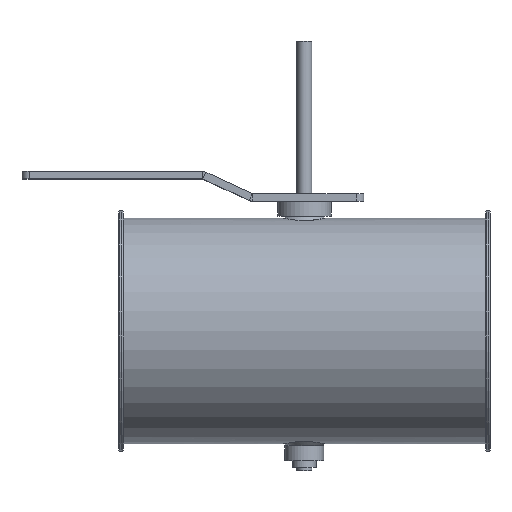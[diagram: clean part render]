
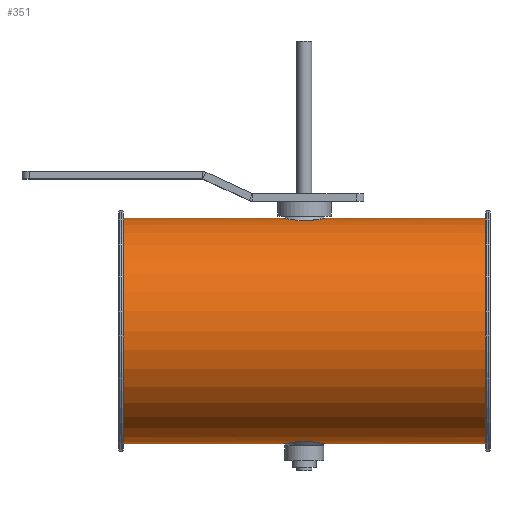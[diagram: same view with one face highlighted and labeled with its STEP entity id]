
A CAD part, top view. The second image highlights one B-rep face of the part: STEP entity #351.
In plain terms, the highlighted cylindrical face has radius 75.8 mm (diameter 151.6 mm), a full revolution.
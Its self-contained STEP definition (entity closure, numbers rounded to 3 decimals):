
#113=B_SPLINE_CURVE_WITH_KNOTS('',3,(#2085,#2086,#2087,#2088,#2089,#2090,
#2091,#2092,#2093,#2094,#2095,#2096,#2097,#2098,#2099,#2100,#2101,#2102,
#2103,#2104,#2105,#2106),.UNSPECIFIED.,.T.,.F.,(2,2,2,2,2,2,2,2,2,2,2,2,
2),(-0.062,0.,0.125,0.25,0.375,0.438,0.5,0.625,0.75,0.875,
0.938,1.,1.125),.UNSPECIFIED.);
#114=B_SPLINE_CURVE_WITH_KNOTS('',3,(#2108,#2109,#2110,#2111,#2112,#2113,
#2114,#2115,#2116,#2117,#2118,#2119,#2120,#2121,#2122,#2123,#2124,#2125,
#2126,#2127,#2128,#2129),.UNSPECIFIED.,.T.,.F.,(2,2,2,2,2,2,2,2,2,2,2,2,
2),(-0.125,0.,0.063,0.125,0.25,0.375,0.5,0.563,0.625,0.75,0.875,1.,1.063),
 .UNSPECIFIED.);
#287=CYLINDRICAL_SURFACE('',#1420,75.8);
#351=ADVANCED_FACE('',(#487,#488,#489,#490),#287,.T.);
#487=FACE_BOUND('',#651,.T.);
#488=FACE_BOUND('',#652,.T.);
#489=FACE_BOUND('',#653,.T.);
#490=FACE_BOUND('',#654,.T.);
#651=EDGE_LOOP('',(#919));
#652=EDGE_LOOP('',(#920));
#653=EDGE_LOOP('',(#921));
#654=EDGE_LOOP('',(#922));
#919=ORIENTED_EDGE('',*,*,#1197,.T.);
#920=ORIENTED_EDGE('',*,*,#1198,.T.);
#921=ORIENTED_EDGE('',*,*,#1199,.T.);
#922=ORIENTED_EDGE('',*,*,#1200,.F.);
#1063=VERTEX_POINT('',#2084);
#1064=VERTEX_POINT('',#2107);
#1065=VERTEX_POINT('',#2130);
#1066=VERTEX_POINT('',#2132);
#1197=EDGE_CURVE('',#1063,#1063,#1283,.T.);
#1198=EDGE_CURVE('',#1064,#1064,#113,.T.);
#1199=EDGE_CURVE('',#1065,#1065,#114,.T.);
#1200=EDGE_CURVE('',#1066,#1066,#1284,.T.);
#1283=CIRCLE('',#1418,75.8);
#1284=CIRCLE('',#1419,75.8);
#1418=AXIS2_PLACEMENT_3D('',#2083,#1738,#1739);
#1419=AXIS2_PLACEMENT_3D('',#2131,#1740,#1741);
#1420=AXIS2_PLACEMENT_3D('',#2133,#1742,#1743);
#1738=DIRECTION('',(1.,0.,0.));
#1739=DIRECTION('',(0.,0.,1.));
#1740=DIRECTION('',(1.,0.,0.));
#1741=DIRECTION('',(0.,0.,1.));
#1742=DIRECTION('',(1.,0.,0.));
#1743=DIRECTION('',(0.,0.,-1.));
#2083=CARTESIAN_POINT('',(-122.,-33.3,125.));
#2084=CARTESIAN_POINT('',(-122.,-33.3,200.8));
#2085=CARTESIAN_POINT('',(-1.915,-107.469,109.347));
#2086=CARTESIAN_POINT('',(-7.562,-107.826,111.109));
#2087=CARTESIAN_POINT('',(-10.621,-108.374,113.968));
#2088=CARTESIAN_POINT('',(-14.122,-109.069,120.892));
#2089=CARTESIAN_POINT('',(-14.603,-109.195,125.036));
#2090=CARTESIAN_POINT('',(-12.852,-108.813,132.605));
#2091=CARTESIAN_POINT('',(-10.608,-108.314,136.114));
#2092=CARTESIAN_POINT('',(-5.817,-107.729,139.396));
#2093=CARTESIAN_POINT('',(-3.978,-107.568,140.164));
#2094=CARTESIAN_POINT('',(-0.112,-107.436,140.797));
#2095=CARTESIAN_POINT('',(1.892,-107.468,140.655));
#2096=CARTESIAN_POINT('',(7.524,-107.822,138.912));
#2097=CARTESIAN_POINT('',(10.597,-108.369,136.071));
#2098=CARTESIAN_POINT('',(14.133,-109.071,129.094));
#2099=CARTESIAN_POINT('',(14.606,-109.195,124.972));
#2100=CARTESIAN_POINT('',(12.847,-108.811,117.377));
#2101=CARTESIAN_POINT('',(10.591,-108.311,113.868));
#2102=CARTESIAN_POINT('',(5.799,-107.727,110.595));
#2103=CARTESIAN_POINT('',(3.94,-107.566,109.826));
#2104=CARTESIAN_POINT('',(0.102,-107.437,109.205));
#2105=CARTESIAN_POINT('',(-1.915,-107.469,109.347));
#2106=CARTESIAN_POINT('',(-7.562,-107.826,111.109));
#2107=CARTESIAN_POINT('',(-3.798,-107.588,109.935));
#2108=CARTESIAN_POINT('',(-7.563,41.226,111.109));
#2109=CARTESIAN_POINT('',(-1.915,40.869,109.347));
#2110=CARTESIAN_POINT('',(0.083,40.837,109.204));
#2111=CARTESIAN_POINT('',(3.931,40.966,109.822));
#2112=CARTESIAN_POINT('',(5.783,41.125,110.584));
#2113=CARTESIAN_POINT('',(10.614,41.714,113.883));
#2114=CARTESIAN_POINT('',(12.856,42.213,117.393));
#2115=CARTESIAN_POINT('',(14.607,42.596,124.998));
#2116=CARTESIAN_POINT('',(14.117,42.467,129.126));
#2117=CARTESIAN_POINT('',(10.611,41.772,136.043));
#2118=CARTESIAN_POINT('',(7.552,41.226,138.889));
#2119=CARTESIAN_POINT('',(1.943,40.87,140.647));
#2120=CARTESIAN_POINT('',(-0.037,40.836,140.8));
#2121=CARTESIAN_POINT('',(-3.935,40.965,140.18));
#2122=CARTESIAN_POINT('',(-5.777,41.125,139.417));
#2123=CARTESIAN_POINT('',(-10.595,41.711,136.134));
#2124=CARTESIAN_POINT('',(-12.844,42.211,132.638));
#2125=CARTESIAN_POINT('',(-14.61,42.596,125.007));
#2126=CARTESIAN_POINT('',(-14.139,42.472,120.921));
#2127=CARTESIAN_POINT('',(-10.599,41.769,113.927));
#2128=CARTESIAN_POINT('',(-7.563,41.226,111.109));
#2129=CARTESIAN_POINT('',(-1.915,40.869,109.347));
#2130=CARTESIAN_POINT('',(-3.798,40.988,109.935));
#2131=CARTESIAN_POINT('',(122.,-33.3,125.));
#2132=CARTESIAN_POINT('',(122.,-33.3,200.8));
#2133=CARTESIAN_POINT('',(-125.,-33.3,125.));
